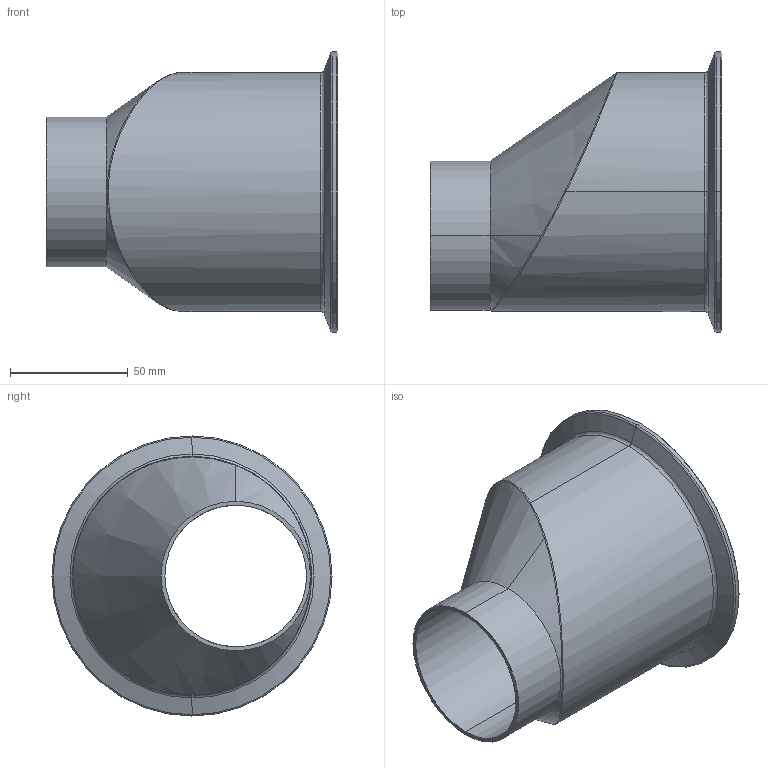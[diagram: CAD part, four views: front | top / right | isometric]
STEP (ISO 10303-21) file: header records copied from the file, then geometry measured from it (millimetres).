
FILE_DESCRIPTION (( 'STEP AP214' ), '1' );
FILE_NAME ('TE32SCW6L4.0x2.5-...STEP', '2016-06-01T10:33:02', ( 'eran' ), ( '' ), 'SwSTEP 2.0', 'SolidWorks 2016', '' );
FILE_SCHEMA (( 'AUTOMOTIVE_DESIGN' ));
Length unit declared in the file: millimetre
Products named in the file (1): TE32SCW6L4.0x2.5-..
Bounding box: 123.83 x 119 x 119 mm (x, y, z)
Volume: 286311.9 mm3; surface area: 70815.3 mm2
Topology: 1 solids, 1 shells, 45 faces, 99 edges, 55 vertices
Faces by surface type: cone 15, torus 13, cylinder 10, bspline 4, plane 3
Entity records: 2130 total; most frequent: CARTESIAN_POINT 1125, DIRECTION 220, ORIENTED_EDGE 194, AXIS2_PLACEMENT_3D 98, EDGE_CURVE 97, CIRCLE 56, VERTEX_POINT 55, EDGE_LOOP 48
